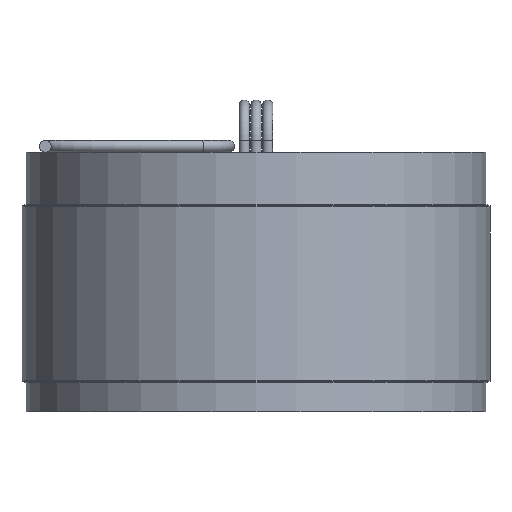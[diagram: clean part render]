
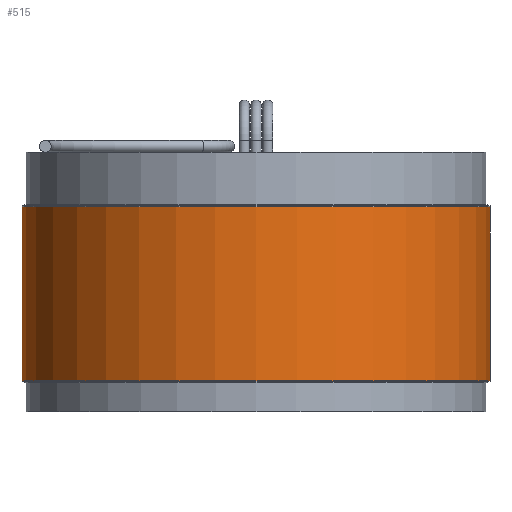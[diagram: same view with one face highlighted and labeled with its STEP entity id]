
A CAD part, front view. The second image highlights one B-rep face of the part: STEP entity #515.
In plain terms, the highlighted cylindrical face has radius 50.8 mm (diameter 101.6 mm), a full revolution.
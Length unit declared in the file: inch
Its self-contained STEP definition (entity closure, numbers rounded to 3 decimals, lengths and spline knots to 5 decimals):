
#70 = CYLINDRICAL_SURFACE ( 'NONE', #1047, 2. ) ;
#83 = ORIENTED_EDGE ( 'NONE', *, *, #1141, .F. ) ;
#342 = CARTESIAN_POINT ( 'NONE',  ( 0., 0., -0.74213 ) ) ;
#437 = DIRECTION ( 'NONE',  ( 1., 0., 0. ) ) ;
#500 = CIRCLE ( 'NONE', #1417, 2. ) ;
#515 = ADVANCED_FACE ( 'NONE', ( #715, #599 ), #70, .T. ) ;
#541 = DIRECTION ( 'NONE',  ( 1., 0., 0. ) ) ;
#599 = FACE_OUTER_BOUND ( 'NONE', #849, .T. ) ;
#670 = CARTESIAN_POINT ( 'NONE',  ( 0., 0., -0.76 ) ) ;
#680 = DIRECTION ( 'NONE',  ( 1., 0., 0. ) ) ;
#715 = FACE_OUTER_BOUND ( 'NONE', #1005, .T. ) ;
#734 = AXIS2_PLACEMENT_3D ( 'NONE', #342, #1349, #680 ) ;
#849 = EDGE_LOOP ( 'NONE', ( #1266 ) ) ;
#972 = DIRECTION ( 'NONE',  ( 0., 0., 1. ) ) ;
#1005 = EDGE_LOOP ( 'NONE', ( #83 ) ) ;
#1012 = DIRECTION ( 'NONE',  ( 0., 0., 1. ) ) ;
#1047 = AXIS2_PLACEMENT_3D ( 'NONE', #670, #1012, #437 ) ;
#1091 = CARTESIAN_POINT ( 'NONE',  ( 0., 0., 0.74213 ) ) ;
#1141 = EDGE_CURVE ( 'NONE', #1215, #1215, #500, .T. ) ;
#1215 = VERTEX_POINT ( 'NONE', #1244 ) ;
#1244 = CARTESIAN_POINT ( 'NONE',  ( 2., 0., 0.74213 ) ) ;
#1266 = ORIENTED_EDGE ( 'NONE', *, *, #1326, .T. ) ;
#1326 = EDGE_CURVE ( 'NONE', #1400, #1400, #1383, .T. ) ;
#1349 = DIRECTION ( 'NONE',  ( 0., 0., 1. ) ) ;
#1375 = CARTESIAN_POINT ( 'NONE',  ( 2., 0., -0.74213 ) ) ;
#1383 = CIRCLE ( 'NONE', #734, 2. ) ;
#1400 = VERTEX_POINT ( 'NONE', #1375 ) ;
#1417 = AXIS2_PLACEMENT_3D ( 'NONE', #1091, #972, #541 ) ;
